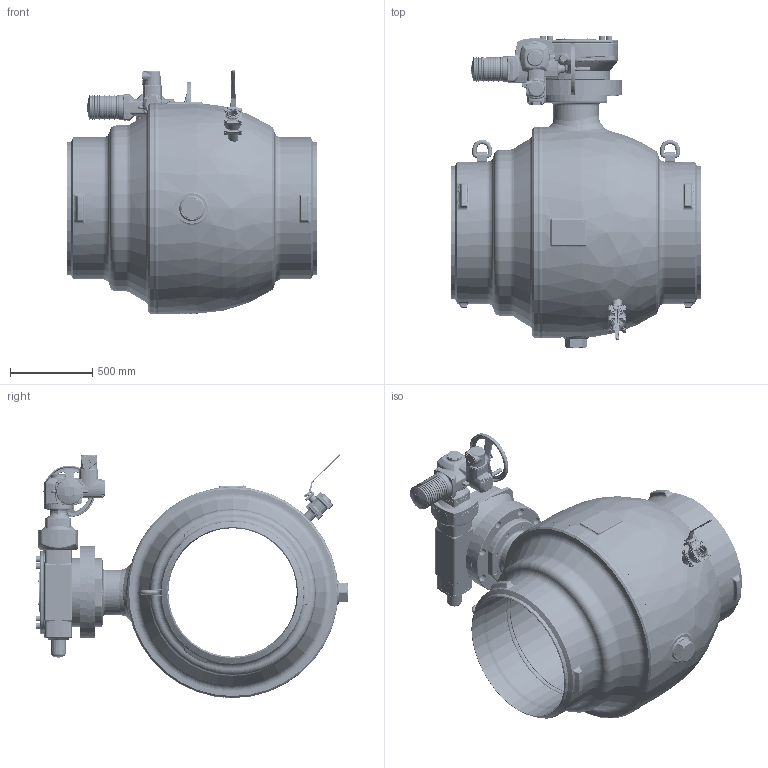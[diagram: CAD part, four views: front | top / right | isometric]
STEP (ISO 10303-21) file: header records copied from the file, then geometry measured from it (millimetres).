
FILE_DESCRIPTION((''),'2;1');
FILE_NAME('ASM0001_ASM','2026-01-28T11:34:56',('schwaba'),('KLINGER'),'CREO PARAMETRIC BY PTC INC, 2023014','CREO PARAMETRIC BY PTC INC, 2023014','');
FILE_SCHEMA(('CONFIG_CONTROL_DESIGN'));
Length unit declared in the file: millimetre
Products named in the file (7): KHSVI_800_FR_WE_ENTL; GS250_848_F35_F14_DN800; SA14_2_F14_GRUNDKOERPER; SA14_2_MOTOR_400V; AUMA-STECKERDECKEL; SA14_2_400V_ASM; ASM0001_ASM
Assembly tree (6 placements, depth 3):
  ASM0001_ASM
    KHSVI_800_FR_WE_ENTL
    GS250_848_F35_F14_DN800
    SA14_2_400V_ASM
      SA14_2_F14_GRUNDKOERPER
      SA14_2_MOTOR_400V
      AUMA-STECKERDECKEL
Bounding box: 1524 x 1895 x 1486.43 mm (x, y, z)
Volume: 554812868.9 mm3; surface area: 25462516.5 mm2
Topology: 9 solids, 14 shells, 7102 faces, 17089 edges, 10106 vertices
Faces by surface type: plane 1862, cylinder 1805, bspline 1136, torus 1090, cone 974, sphere 140, extrusion 63, revolution 32
Entity records: 416854 total; most frequent: CARTESIAN_POINT 261581, ORIENTED_EDGE 33798, DIRECTION 30685, EDGE_CURVE 16899, AXIS2_PLACEMENT_3D 12800, VERTEX_POINT 10106, EDGE_LOOP 7545, FACE_OUTER_BOUND 7102
